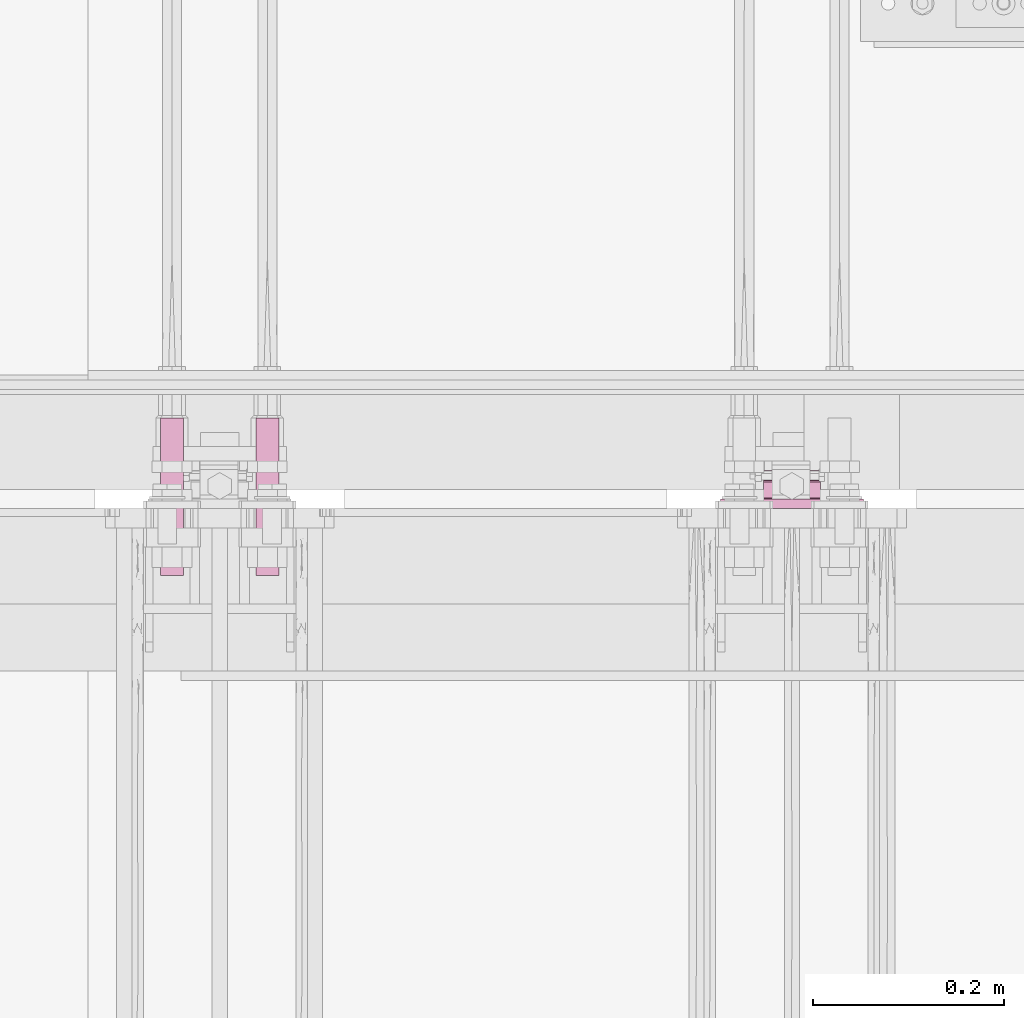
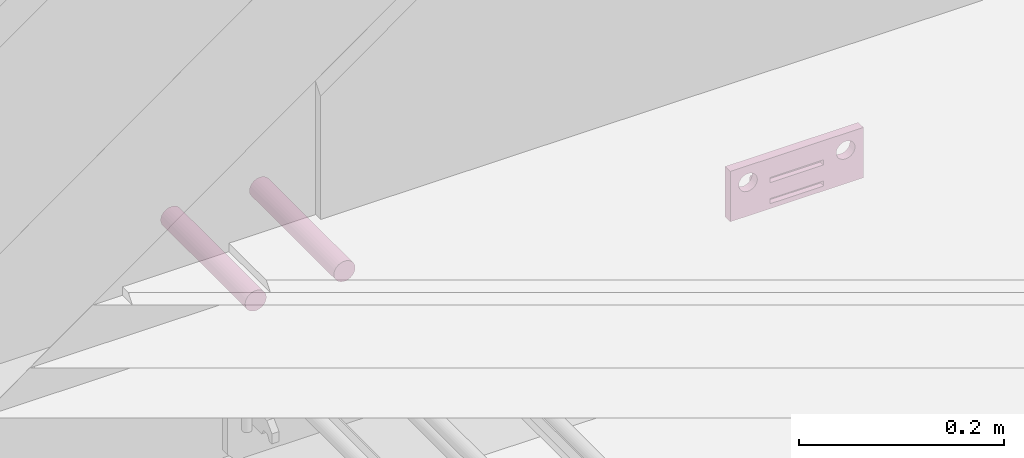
# One storey, part 14 of 17: 3 furnishings.
"""IFC2X3 building model written with IfcOpenShell, lengths in metres."""

from ifc_helpers import new_model, entity, si_unit, converted_unit, derived_unit, direction, frame, frame_2d, origin, place, context, subcontext, project, spatial, polyline, circle_curve, parameter, trimmed, segment, composite_curve, circle, outline, extrude, source, transform, mapped, material, type_object, type_shapes, element, save


model = new_model("IFC2X3")

# Units and contexts
model_context = context("Model", 3, precision=1e-05, world=origin(), true_north=direction((6.123031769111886e-17, 1.0)))
plan_context = context("Plan", 3, precision=1e-05, world=origin(), true_north=direction((6.123031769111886e-17, 1.0)))
body_context = subcontext(model_context, "Body", "Model", "MODEL_VIEW")
ifc_project = project(units=[si_unit("LENGTHUNIT", "METRE"), si_unit("AREAUNIT", "SQUARE_METRE"), converted_unit("PLANEANGLEUNIT", "DEGREE", entity("IfcPlaneAngleMeasure", 0.017453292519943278), si_unit("PLANEANGLEUNIT", "RADIAN"), dimensions=[0, 0, 0, 0, 0, 0, 0]), si_unit("VOLUMEUNIT", "CUBIC_METRE"), derived_unit("THERMALTRANSMITTANCEUNIT", [(si_unit("MASSUNIT", "GRAM", prefix="KILO"), 1), (si_unit("THERMODYNAMICTEMPERATUREUNIT", "KELVIN"), -1), (si_unit("TIMEUNIT", "SECOND"), -3)]), derived_unit("USERDEFINED", [(si_unit("MASSUNIT", "GRAM", prefix="KILO"), 1), (si_unit("THERMODYNAMICTEMPERATUREUNIT", "KELVIN"), -1), (si_unit("TIMEUNIT", "SECOND"), -2)]), derived_unit("THERMALRESISTANCEUNIT", [(si_unit("MASSUNIT", "GRAM", prefix="KILO"), -1), (si_unit("TIMEUNIT", "SECOND"), 3), (si_unit("THERMODYNAMICTEMPERATUREUNIT", "KELVIN"), 1)]), si_unit("PRESSUREUNIT", "PASCAL"), derived_unit("MASSDENSITYUNIT", [(si_unit("MASSUNIT", "GRAM", prefix="KILO"), 1), (si_unit("LENGTHUNIT", "METRE"), -3)]), derived_unit("VAPORPERMEABILITYUNIT", [(si_unit("LENGTHUNIT", "METRE"), -1), (si_unit("TIMEUNIT", "SECOND"), 1)]), derived_unit("USERDEFINED", [(si_unit("MASSUNIT", "GRAM", prefix="KILO"), 1), (si_unit("TIMEUNIT", "SECOND"), -3), (si_unit("LENGTHUNIT", "METRE"), 3), (si_unit("ELECTRICCURRENTUNIT", "AMPERE"), -2)])], contexts=[model_context, plan_context])

# Site, building, storey
site_placement = place(None, origin())
site = spatial("IfcSite", under=ifc_project, at=site_placement, Name="Default", CompositionType="ELEMENT")
building_placement = place(site_placement, origin())
building = spatial("IfcBuilding", under=site, at=building_placement, CompositionType="ELEMENT")
storey_placement = place(building_placement, origin())
storey = spatial("IfcBuildingStorey", under=building, at=storey_placement, Name="L0", CompositionType="ELEMENT", Elevation=0.0)

# Furnishings
ifc_material = material(Name="REC_Acero, S 275JR (Zincado)")
furniture_type_1 = type_object("IfcFurnitureType", Name="REC_FBAIGCEQ:FBAIGCEQ", AssemblyPlace="NOTDEFINED", material=ifc_material)
shared_shape_1 = source(origin(), body_context, "Body", "SweptSolid", [
    extrude(outline(composite_curve([segment(polyline([(-0.005276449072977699, -0.016578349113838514), (0.013723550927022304, -0.016578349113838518)]), True, "CONTINUOUS"), segment(polyline([(0.01372355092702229, -0.016578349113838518), (0.013723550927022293, -0.010578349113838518)]), True, "CONTINUOUS"), segment(polyline([(0.013723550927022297, -0.010578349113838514), (0.0197235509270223, -0.010578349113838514)]), True, "CONTINUOUS"), segment(polyline([(0.0197235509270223, -0.010578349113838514), (0.0197235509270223, -0.006578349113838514)]), True, "CONTINUOUS"), segment(polyline([(0.019723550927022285, -0.00657834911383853), (0.014744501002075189, -0.005535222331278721)]), True, "CONTINUOUS"), segment(trimmed(circle_curve(frame_2d((0.014436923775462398, -0.007003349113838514), x_axis=(-1.0, 0.0)), 0.0015000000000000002), [parameter(258.1674870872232)], [parameter(288.1948723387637)], True, "PARAMETER"), True, "CONTINUOUS"), segment(trimmed(circle_curve(frame_2d((0.007723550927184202, 0.013421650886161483), x_axis=(-1.0, 0.0)), 0.02), [parameter(71.80512766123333)], [parameter(108.1948723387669)], True, "PARAMETER"), False, "CONTINUOUS"), segment(polyline([(0.0014785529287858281, -0.005578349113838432), (-0.003149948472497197, -0.004057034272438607)]), True, "CONTINUOUS"), segment(trimmed(circle_curve(frame_2d((-0.0012764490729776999, 0.001642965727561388), x_axis=(-1.0, 0.0)), 0.006000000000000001), [parameter(0.0)], [parameter(71.80512766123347)], True, "PARAMETER"), False, "CONTINUOUS"), segment(polyline([(-0.007276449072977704, 0.0016429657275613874), (-0.007276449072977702, 0.00875220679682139)]), True, "CONTINUOUS"), segment(trimmed(circle_curve(frame_2d((-0.004276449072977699, 0.008752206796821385), x_axis=(-1.0, 0.0)), 0.0030000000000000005), [parameter(290.0)], [parameter(0.0)], True, "PARAMETER"), False, "CONTINUOUS"), segment(polyline([(-0.005302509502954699, 0.011571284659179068), (-0.0015924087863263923, 0.012921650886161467)]), True, "CONTINUOUS"), segment(trimmed(circle_curve(frame_2d((-0.0022764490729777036, 0.014801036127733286), x_axis=(-1.0, 0.0)), 0.002), [parameter(109.99999999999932)], [parameter(180.0000000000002)], True, "PARAMETER"), True, "CONTINUOUS"), segment(polyline([(-0.00027644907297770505, 0.014801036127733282), (-0.0002764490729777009, 0.019421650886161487)]), True, "CONTINUOUS"), segment(trimmed(circle_curve(frame_2d((-0.004276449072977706, 0.019421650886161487), x_axis=(-1.0, 0.0)), 0.004), [parameter(179.9999999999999)], [parameter(269.9999999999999)], True, "PARAMETER"), True, "CONTINUOUS"), segment(polyline([(-0.004276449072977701, 0.023421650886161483), (-0.017276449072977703, 0.023421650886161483)]), True, "CONTINUOUS"), segment(polyline([(-0.017276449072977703, 0.023421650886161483), (-0.0172764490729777, -0.006578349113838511)]), True, "CONTINUOUS"), segment(polyline([(-0.017276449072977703, -0.006578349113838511), (-0.0112764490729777, -0.006578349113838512)]), True, "CONTINUOUS"), segment(polyline([(-0.011276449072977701, -0.006578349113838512), (-0.011276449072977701, -0.010578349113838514)]), True, "CONTINUOUS"), segment(polyline([(-0.011276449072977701, -0.010578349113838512), (-0.005276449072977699, -0.01057834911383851)]), True, "CONTINUOUS"), segment(polyline([(-0.005276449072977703, -0.010578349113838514), (-0.0052764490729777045, -0.016578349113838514)]), True, "CONTINUOUS")], self_intersect=False)), frame((0.0, 0.01727644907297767, 0.01657834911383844), z_axis=(1.0, 0.0, 0.0), x_axis=(0.0, 1.0, 0.0)), (0.0, 0.0, 1.0), 0.015),
    extrude(outline(composite_curve([segment(polyline([(-0.005276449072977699, -0.016578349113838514), (0.013723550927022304, -0.016578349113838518)]), True, "CONTINUOUS"), segment(polyline([(0.01372355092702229, -0.016578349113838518), (0.013723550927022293, -0.010578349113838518)]), True, "CONTINUOUS"), segment(polyline([(0.013723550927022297, -0.010578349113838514), (0.0197235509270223, -0.010578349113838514)]), True, "CONTINUOUS"), segment(polyline([(0.0197235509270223, -0.010578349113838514), (0.0197235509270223, -0.006578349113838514)]), True, "CONTINUOUS"), segment(polyline([(0.019723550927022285, -0.00657834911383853), (0.014744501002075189, -0.005535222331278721)]), True, "CONTINUOUS"), segment(trimmed(circle_curve(frame_2d((0.014436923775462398, -0.007003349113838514), x_axis=(-1.0, 0.0)), 0.0015000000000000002), [parameter(258.1674870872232)], [parameter(288.1948723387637)], True, "PARAMETER"), True, "CONTINUOUS"), segment(trimmed(circle_curve(frame_2d((0.007723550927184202, 0.013421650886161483), x_axis=(-1.0, 0.0)), 0.02), [parameter(71.80512766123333)], [parameter(108.1948723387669)], True, "PARAMETER"), False, "CONTINUOUS"), segment(polyline([(0.0014785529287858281, -0.005578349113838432), (-0.003149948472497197, -0.004057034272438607)]), True, "CONTINUOUS"), segment(trimmed(circle_curve(frame_2d((-0.0012764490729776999, 0.001642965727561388), x_axis=(-1.0, 0.0)), 0.006000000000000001), [parameter(0.0)], [parameter(71.80512766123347)], True, "PARAMETER"), False, "CONTINUOUS"), segment(polyline([(-0.007276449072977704, 0.0016429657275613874), (-0.007276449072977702, 0.00875220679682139)]), True, "CONTINUOUS"), segment(trimmed(circle_curve(frame_2d((-0.004276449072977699, 0.008752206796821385), x_axis=(-1.0, 0.0)), 0.0030000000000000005), [parameter(290.0)], [parameter(0.0)], True, "PARAMETER"), False, "CONTINUOUS"), segment(polyline([(-0.005302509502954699, 0.011571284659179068), (-0.0015924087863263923, 0.012921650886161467)]), True, "CONTINUOUS"), segment(trimmed(circle_curve(frame_2d((-0.0022764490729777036, 0.014801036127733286), x_axis=(-1.0, 0.0)), 0.002), [parameter(109.99999999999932)], [parameter(180.0000000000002)], True, "PARAMETER"), True, "CONTINUOUS"), segment(polyline([(-0.00027644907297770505, 0.014801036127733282), (-0.0002764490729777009, 0.019421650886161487)]), True, "CONTINUOUS"), segment(trimmed(circle_curve(frame_2d((-0.004276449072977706, 0.019421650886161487), x_axis=(-1.0, 0.0)), 0.004), [parameter(179.9999999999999)], [parameter(269.9999999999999)], True, "PARAMETER"), True, "CONTINUOUS"), segment(polyline([(-0.004276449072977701, 0.023421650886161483), (-0.017276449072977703, 0.023421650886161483)]), True, "CONTINUOUS"), segment(polyline([(-0.017276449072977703, 0.023421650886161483), (-0.0172764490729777, -0.006578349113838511)]), True, "CONTINUOUS"), segment(polyline([(-0.017276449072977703, -0.006578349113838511), (-0.0112764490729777, -0.006578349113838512)]), True, "CONTINUOUS"), segment(polyline([(-0.011276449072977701, -0.006578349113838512), (-0.011276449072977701, -0.010578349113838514)]), True, "CONTINUOUS"), segment(polyline([(-0.011276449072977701, -0.010578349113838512), (-0.005276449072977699, -0.01057834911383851)]), True, "CONTINUOUS"), segment(polyline([(-0.005276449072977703, -0.010578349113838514), (-0.0052764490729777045, -0.016578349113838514)]), True, "CONTINUOUS")], self_intersect=False)), frame((-0.030000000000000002, 0.01727644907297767, 0.01657834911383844), z_axis=(1.0, 0.0, 0.0), x_axis=(0.0, 1.0, 0.0)), (0.0, 0.0, 1.0), 0.015),
    extrude(outline(composite_curve([segment(polyline([(-0.005276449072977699, -0.016578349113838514), (0.013723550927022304, -0.016578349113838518)]), True, "CONTINUOUS"), segment(polyline([(0.01372355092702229, -0.016578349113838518), (0.013723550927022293, -0.010578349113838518)]), True, "CONTINUOUS"), segment(polyline([(0.013723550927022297, -0.010578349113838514), (0.0197235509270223, -0.010578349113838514)]), True, "CONTINUOUS"), segment(polyline([(0.0197235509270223, -0.010578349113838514), (0.0197235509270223, -0.006578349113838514)]), True, "CONTINUOUS"), segment(polyline([(0.019723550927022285, -0.00657834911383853), (0.014744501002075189, -0.005535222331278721)]), True, "CONTINUOUS"), segment(trimmed(circle_curve(frame_2d((0.014436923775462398, -0.007003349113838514), x_axis=(-1.0, 0.0)), 0.0015000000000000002), [parameter(258.1674870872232)], [parameter(288.1948723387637)], True, "PARAMETER"), True, "CONTINUOUS"), segment(trimmed(circle_curve(frame_2d((0.007723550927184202, 0.013421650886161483), x_axis=(-1.0, 0.0)), 0.02), [parameter(71.80512766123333)], [parameter(108.1948723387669)], True, "PARAMETER"), False, "CONTINUOUS"), segment(polyline([(0.0014785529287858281, -0.005578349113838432), (-0.003149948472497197, -0.004057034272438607)]), True, "CONTINUOUS"), segment(trimmed(circle_curve(frame_2d((-0.0012764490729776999, 0.001642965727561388), x_axis=(-1.0, 0.0)), 0.006000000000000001), [parameter(0.0)], [parameter(71.80512766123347)], True, "PARAMETER"), False, "CONTINUOUS"), segment(polyline([(-0.007276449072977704, 0.0016429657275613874), (-0.007276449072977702, 0.00875220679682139)]), True, "CONTINUOUS"), segment(trimmed(circle_curve(frame_2d((-0.004276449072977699, 0.008752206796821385), x_axis=(-1.0, 0.0)), 0.0030000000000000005), [parameter(290.0)], [parameter(0.0)], True, "PARAMETER"), False, "CONTINUOUS"), segment(polyline([(-0.005302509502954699, 0.011571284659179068), (-0.0015924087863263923, 0.012921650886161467)]), True, "CONTINUOUS"), segment(trimmed(circle_curve(frame_2d((-0.0022764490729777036, 0.014801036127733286), x_axis=(-1.0, 0.0)), 0.002), [parameter(109.99999999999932)], [parameter(180.0000000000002)], True, "PARAMETER"), True, "CONTINUOUS"), segment(polyline([(-0.00027644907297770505, 0.014801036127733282), (-0.0002764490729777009, 0.019421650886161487)]), True, "CONTINUOUS"), segment(trimmed(circle_curve(frame_2d((-0.004276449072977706, 0.019421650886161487), x_axis=(-1.0, 0.0)), 0.004), [parameter(179.9999999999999)], [parameter(269.9999999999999)], True, "PARAMETER"), True, "CONTINUOUS"), segment(polyline([(-0.004276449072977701, 0.023421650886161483), (-0.017276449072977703, 0.023421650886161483)]), True, "CONTINUOUS"), segment(polyline([(-0.017276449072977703, 0.023421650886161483), (-0.0172764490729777, -0.006578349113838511)]), True, "CONTINUOUS"), segment(polyline([(-0.017276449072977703, -0.006578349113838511), (-0.0112764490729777, -0.006578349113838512)]), True, "CONTINUOUS"), segment(polyline([(-0.011276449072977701, -0.006578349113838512), (-0.011276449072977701, -0.010578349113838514)]), True, "CONTINUOUS"), segment(polyline([(-0.011276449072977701, -0.010578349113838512), (-0.005276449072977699, -0.01057834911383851)]), True, "CONTINUOUS"), segment(polyline([(-0.005276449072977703, -0.010578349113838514), (-0.0052764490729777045, -0.016578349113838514)]), True, "CONTINUOUS")], self_intersect=False)), frame((0.015000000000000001, 0.01727644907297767, 0.01657834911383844), z_axis=(1.0, 0.0, 0.0), x_axis=(0.0, 1.0, 0.0)), (0.0, 0.0, 1.0), 0.015),
    extrude(outline(composite_curve([segment(polyline([(-0.005276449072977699, -0.016578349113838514), (0.013723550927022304, -0.016578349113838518)]), True, "CONTINUOUS"), segment(polyline([(0.01372355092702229, -0.016578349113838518), (0.013723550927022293, -0.010578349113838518)]), True, "CONTINUOUS"), segment(polyline([(0.013723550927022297, -0.010578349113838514), (0.0197235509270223, -0.010578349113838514)]), True, "CONTINUOUS"), segment(polyline([(0.0197235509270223, -0.010578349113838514), (0.0197235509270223, -0.006578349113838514)]), True, "CONTINUOUS"), segment(polyline([(0.019723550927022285, -0.00657834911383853), (0.014744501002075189, -0.005535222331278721)]), True, "CONTINUOUS"), segment(trimmed(circle_curve(frame_2d((0.014436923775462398, -0.007003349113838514), x_axis=(-1.0, 0.0)), 0.0015000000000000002), [parameter(258.1674870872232)], [parameter(288.1948723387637)], True, "PARAMETER"), True, "CONTINUOUS"), segment(trimmed(circle_curve(frame_2d((0.007723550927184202, 0.013421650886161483), x_axis=(-1.0, 0.0)), 0.02), [parameter(71.80512766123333)], [parameter(108.1948723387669)], True, "PARAMETER"), False, "CONTINUOUS"), segment(polyline([(0.0014785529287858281, -0.005578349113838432), (-0.003149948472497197, -0.004057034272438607)]), True, "CONTINUOUS"), segment(trimmed(circle_curve(frame_2d((-0.0012764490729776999, 0.001642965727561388), x_axis=(-1.0, 0.0)), 0.006000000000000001), [parameter(0.0)], [parameter(71.80512766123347)], True, "PARAMETER"), False, "CONTINUOUS"), segment(polyline([(-0.007276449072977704, 0.0016429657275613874), (-0.007276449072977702, 0.00875220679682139)]), True, "CONTINUOUS"), segment(trimmed(circle_curve(frame_2d((-0.004276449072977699, 0.008752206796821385), x_axis=(-1.0, 0.0)), 0.0030000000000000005), [parameter(290.0)], [parameter(0.0)], True, "PARAMETER"), False, "CONTINUOUS"), segment(polyline([(-0.005302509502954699, 0.011571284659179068), (-0.0015924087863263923, 0.012921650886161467)]), True, "CONTINUOUS"), segment(trimmed(circle_curve(frame_2d((-0.0022764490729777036, 0.014801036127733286), x_axis=(-1.0, 0.0)), 0.002), [parameter(109.99999999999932)], [parameter(180.0000000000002)], True, "PARAMETER"), True, "CONTINUOUS"), segment(polyline([(-0.00027644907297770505, 0.014801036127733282), (-0.0002764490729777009, 0.019421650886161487)]), True, "CONTINUOUS"), segment(trimmed(circle_curve(frame_2d((-0.004276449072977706, 0.019421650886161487), x_axis=(-1.0, 0.0)), 0.004), [parameter(179.9999999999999)], [parameter(269.9999999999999)], True, "PARAMETER"), True, "CONTINUOUS"), segment(polyline([(-0.004276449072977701, 0.023421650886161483), (-0.017276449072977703, 0.023421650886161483)]), True, "CONTINUOUS"), segment(polyline([(-0.017276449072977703, 0.023421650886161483), (-0.0172764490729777, -0.006578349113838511)]), True, "CONTINUOUS"), segment(polyline([(-0.017276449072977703, -0.006578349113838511), (-0.0112764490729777, -0.006578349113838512)]), True, "CONTINUOUS"), segment(polyline([(-0.011276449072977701, -0.006578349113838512), (-0.011276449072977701, -0.010578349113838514)]), True, "CONTINUOUS"), segment(polyline([(-0.011276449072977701, -0.010578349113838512), (-0.005276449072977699, -0.01057834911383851)]), True, "CONTINUOUS"), segment(polyline([(-0.005276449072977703, -0.010578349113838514), (-0.0052764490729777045, -0.016578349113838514)]), True, "CONTINUOUS")], self_intersect=False)), frame((-0.015000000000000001, 0.01727644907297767, 0.01657834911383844), z_axis=(1.0, 0.0, 0.0), x_axis=(0.0, 1.0, 0.0)), (0.0, 0.0, 1.0), 0.015),
    extrude(outline(polyline([(-0.03, -0.07500000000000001), (0.03, -0.07500000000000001), (0.03, 0.07500000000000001), (-0.03, 0.07500000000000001), (-0.03, -0.07500000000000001)]), holes=[polyline([(0.02415000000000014, -0.030149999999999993), (-0.007149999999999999, -0.030149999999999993), (-0.007149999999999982, 0.03015000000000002), (0.024150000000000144, 0.030150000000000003), (0.02415000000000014, -0.030149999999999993)]), composite_curve([segment(trimmed(circle_curve(frame_2d((-0.010000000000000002, 0.055), x_axis=(0.0, 1.0)), 0.0105), [parameter(179.9999999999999)], [parameter(359.99999999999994)], True, "PARAMETER"), False, "CONTINUOUS"), segment(trimmed(circle_curve(frame_2d((-0.010000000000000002, 0.055), x_axis=(0.0, 1.0)), 0.0105), [parameter(0.0)], [parameter(180.00000000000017)], True, "PARAMETER"), False, "CONTINUOUS")], self_intersect=False), composite_curve([segment(trimmed(circle_curve(frame_2d((-0.010000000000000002, -0.055), x_axis=(0.0, 1.0)), 0.0105), [parameter(179.9999999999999)], [parameter(359.99999999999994)], True, "PARAMETER"), False, "CONTINUOUS"), segment(trimmed(circle_curve(frame_2d((-0.010000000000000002, -0.055), x_axis=(0.0, 1.0)), 0.0105), [parameter(0.0)], [parameter(180.00000000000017)], True, "PARAMETER"), False, "CONTINUOUS")], self_intersect=False)]), frame((0.0, 0.029999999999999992, 0.0), z_axis=(0.0, 0.0, 1.0), x_axis=(0.0, -1.0, 0.0)), (0.0, 0.0, 1.0), 0.01),
])
type_shapes(furniture_type_1, [shared_shape_1])
furnishing_placement = place(storey_placement, frame((7.5858002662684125, 14.794530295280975, -0.20000000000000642), z_axis=(0.0, 1.0, 0.0), x_axis=(-1.0, 0.0, 0.0)))
element("IfcFurnishingElement", 1, at=furnishing_placement, inside=storey, type_object=furniture_type_1, material=ifc_material, Name="REC_FBAIGCEQ:FBAIGCEQ", ObjectType="REC_FBAIGCEQ:FBAIGCEQ", context=body_context, shape_type="MappedRepresentation", body=[
    mapped(shared_shape_1, transform((0.0, 0.0, 0.0), scale=1.0)),
])
furniture_type_2 = type_object("IfcFurnitureType", Name="REC__VRM24165C88EQM:VRM24165C88EQM", AssemblyPlace="NOTDEFINED", material=ifc_material)
shared_shape_2 = source(origin(), body_context, "Body", "SweptSolid", [
    extrude(circle(Radius=0.012000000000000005, at=frame_2d((0.0, -1.9386534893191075e-17), x_axis=(1.0, 0.0))), origin(), (0.0, 0.0, 1.0), 0.165),
])
type_shapes(furniture_type_2, [shared_shape_2])
for number, where, z_axis, x_axis in (
    (2, (6.935760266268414, 14.889530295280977, -0.050000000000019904), (0.0, -1.0, 0.0), (1.0, 0.0, 0.0)),
    (3, (7.035760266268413, 14.889530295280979, -0.050000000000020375), (0.0, -1.0, 0.0), (1.0, 0.0, 0.0)),
):
    element("IfcFurnishingElement", number, at=place(storey_placement, frame(where, z_axis=z_axis, x_axis=x_axis)), inside=storey, type_object=furniture_type_2, material=ifc_material, Name="REC__VRM24165C88EQM:VRM24165C88EQM", ObjectType="REC__VRM24165C88EQM:VRM24165C88EQM", context=body_context, shape_type="MappedRepresentation", body=[
        mapped(shared_shape_2, transform((0.0, 0.0, 0.0), scale=1.0)),
    ])

save(model, "model.ifc")
